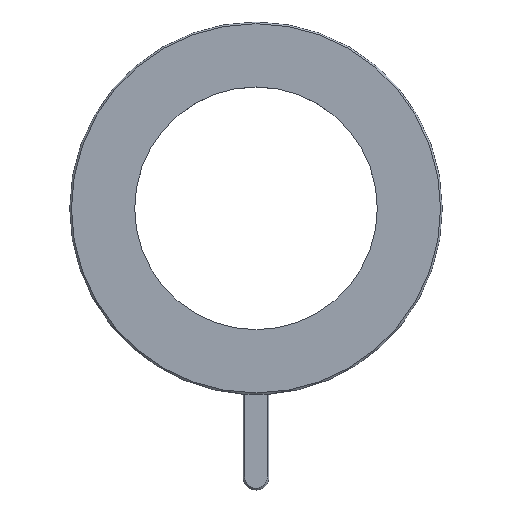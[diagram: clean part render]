
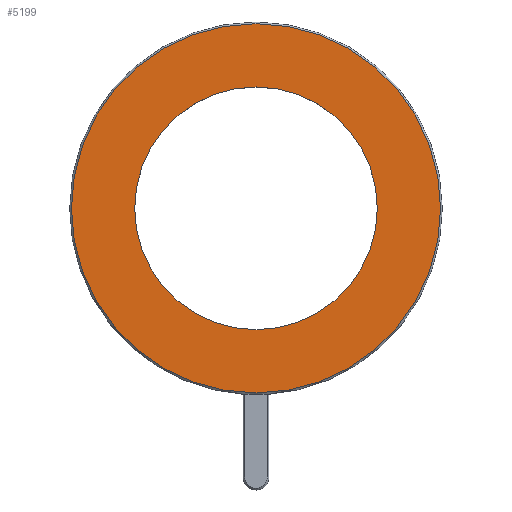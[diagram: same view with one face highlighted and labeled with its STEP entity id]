
A CAD part, top view. The second image highlights one B-rep face of the part: STEP entity #5199.
In plain terms, the highlighted planar face has unit normal (0, 0, 1).
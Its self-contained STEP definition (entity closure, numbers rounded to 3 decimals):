
#172 = FACE_OUTER_BOUND ( 'NONE', #579, .T. ) ;
#176 = CARTESIAN_POINT ( 'NONE',  ( 21., 0., 2.5 ) ) ;
#247 = EDGE_CURVE ( 'NONE', #5422, #3676, #543, .T. ) ;
#388 = CIRCLE ( 'NONE', #2442, 31.95 ) ;
#543 = CIRCLE ( 'NONE', #1345, 21. ) ;
#579 = EDGE_LOOP ( 'NONE', ( #3520, #1322 ) ) ;
#588 = DIRECTION ( 'NONE',  ( 0., 0., 1. ) ) ;
#617 = DIRECTION ( 'NONE',  ( 0., 0., 1. ) ) ;
#722 = EDGE_CURVE ( 'NONE', #2603, #1858, #2153, .T. ) ;
#951 = CARTESIAN_POINT ( 'NONE',  ( 0., 0., 2.5 ) ) ;
#1168 = AXIS2_PLACEMENT_3D ( 'NONE', #3237, #1896, #4826 ) ;
#1248 = CARTESIAN_POINT ( 'NONE',  ( 31.95, 0., 2.5 ) ) ;
#1322 = ORIENTED_EDGE ( 'NONE', *, *, #722, .T. ) ;
#1345 = AXIS2_PLACEMENT_3D ( 'NONE', #951, #2271, #1399 ) ;
#1399 = DIRECTION ( 'NONE',  ( 1., 0., 0. ) ) ;
#1593 = CARTESIAN_POINT ( 'NONE',  ( -21., 0., 2.5 ) ) ;
#1746 = FACE_BOUND ( 'NONE', #5332, .T. ) ;
#1816 = DIRECTION ( 'NONE',  ( 1., 0., 0. ) ) ;
#1858 = VERTEX_POINT ( 'NONE', #2821 ) ;
#1896 = DIRECTION ( 'NONE',  ( 0., 0., 1. ) ) ;
#1990 = CARTESIAN_POINT ( 'NONE',  ( 0., 0., 2.5 ) ) ;
#2153 = CIRCLE ( 'NONE', #1168, 31.95 ) ;
#2271 = DIRECTION ( 'NONE',  ( 0., 0., 1. ) ) ;
#2442 = AXIS2_PLACEMENT_3D ( 'NONE', #1990, #617, #3695 ) ;
#2466 = EDGE_CURVE ( 'NONE', #1858, #2603, #388, .T. ) ;
#2564 = DIRECTION ( 'NONE',  ( 0., 0., 1. ) ) ;
#2579 = CARTESIAN_POINT ( 'NONE',  ( 0., 0., 2.5 ) ) ;
#2603 = VERTEX_POINT ( 'NONE', #1248 ) ;
#2821 = CARTESIAN_POINT ( 'NONE',  ( -31.95, 0., 2.5 ) ) ;
#2928 = ORIENTED_EDGE ( 'NONE', *, *, #4420, .F. ) ;
#3237 = CARTESIAN_POINT ( 'NONE',  ( 0., 0., 2.5 ) ) ;
#3520 = ORIENTED_EDGE ( 'NONE', *, *, #2466, .T. ) ;
#3676 = VERTEX_POINT ( 'NONE', #176 ) ;
#3695 = DIRECTION ( 'NONE',  ( 1., 0., 0. ) ) ;
#3816 = DIRECTION ( 'NONE',  ( 1., 0., 0. ) ) ;
#3914 = CARTESIAN_POINT ( 'NONE',  ( 0., 0., 2.5 ) ) ;
#3977 = AXIS2_PLACEMENT_3D ( 'NONE', #2579, #588, #3816 ) ;
#4049 = CIRCLE ( 'NONE', #4495, 21. ) ;
#4420 = EDGE_CURVE ( 'NONE', #3676, #5422, #4049, .T. ) ;
#4495 = AXIS2_PLACEMENT_3D ( 'NONE', #3914, #2564, #1816 ) ;
#4733 = PLANE ( 'NONE',  #3977 ) ;
#4766 = ORIENTED_EDGE ( 'NONE', *, *, #247, .F. ) ;
#4826 = DIRECTION ( 'NONE',  ( 1., 0., 0. ) ) ;
#5199 = ADVANCED_FACE ( 'NONE', ( #172, #1746 ), #4733, .T. ) ;
#5332 = EDGE_LOOP ( 'NONE', ( #2928, #4766 ) ) ;
#5422 = VERTEX_POINT ( 'NONE', #1593 ) ;
